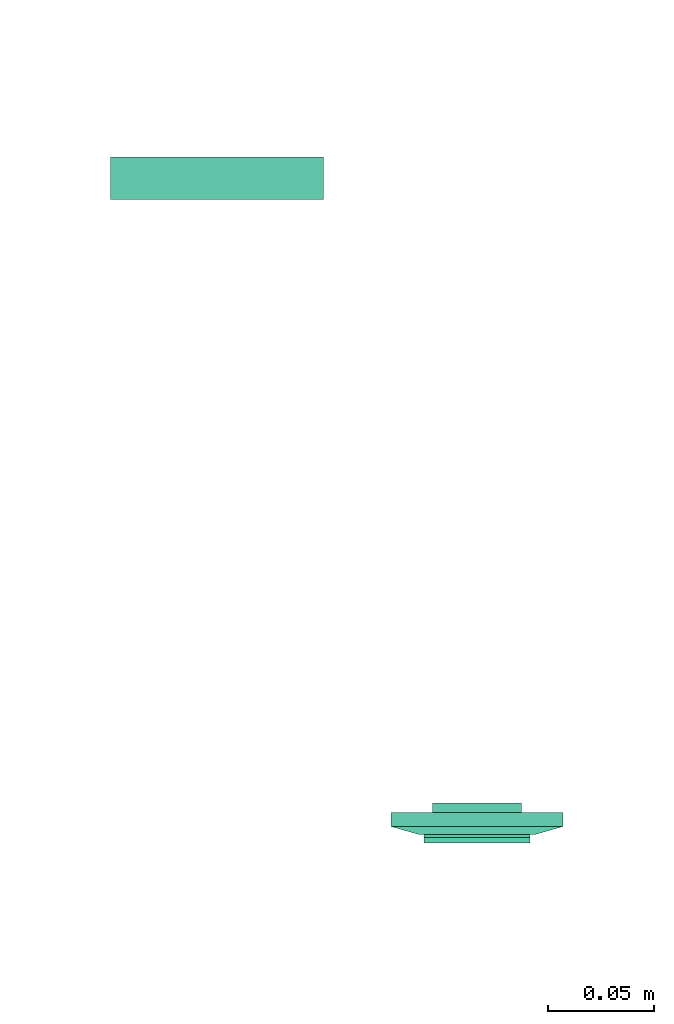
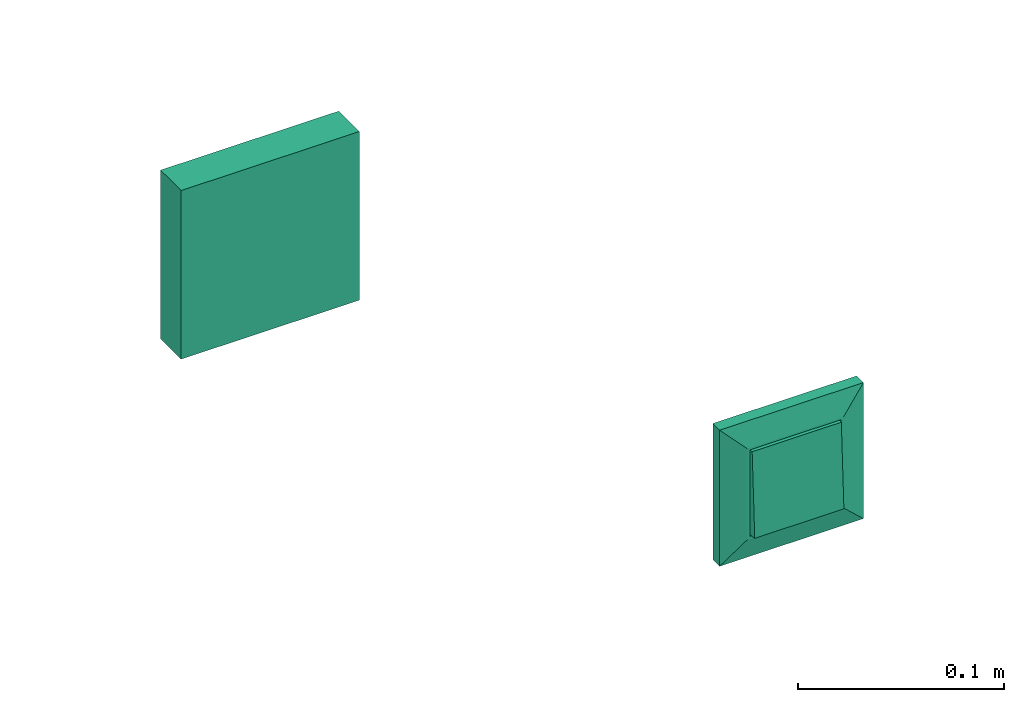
# One storey, part 114 of 153: 2 flow terminals.
"""IFC2X3 building model written with IfcOpenShell, lengths in metres."""

from ifc_helpers import new_model, entity, si_unit, converted_unit, derived_unit, direction, frame, origin, origin_2d_with_axis, place, context, subcontext, project, spatial, rectangle, extrude, faceted_brep, source, transform, mapped, type_object, type_shapes, element, save


model = new_model("IFC2X3")

# Units and contexts
model_context = context("Model", 3, precision=1e-05, world=origin(), true_north=direction((6.12303176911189e-17, 1.0)))
body_context = subcontext(model_context, "Body", "Model", "MODEL_VIEW")
ifc_project = project(units=[si_unit("LENGTHUNIT", "METRE"), si_unit("AREAUNIT", "SQUARE_METRE"), si_unit("VOLUMEUNIT", "CUBIC_METRE"), converted_unit("PLANEANGLEUNIT", "DEGREE", entity("IfcRatioMeasure", 0.0174532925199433), si_unit("PLANEANGLEUNIT", "RADIAN"), dimensions=[0, 0, 0, 0, 0, 0, 0]), si_unit("MASSUNIT", "GRAM", prefix="KILO"), derived_unit("MASSDENSITYUNIT", [(si_unit("MASSUNIT", "GRAM", prefix="KILO"), 1), (si_unit("LENGTHUNIT", "METRE"), -3)]), si_unit("TIMEUNIT", "SECOND"), si_unit("FREQUENCYUNIT", "HERTZ"), si_unit("THERMODYNAMICTEMPERATUREUNIT", "DEGREE_CELSIUS"), derived_unit("THERMALTRANSMITTANCEUNIT", [(si_unit("MASSUNIT", "GRAM", prefix="KILO"), 1), (si_unit("THERMODYNAMICTEMPERATUREUNIT", "KELVIN"), -1), (si_unit("TIMEUNIT", "SECOND"), -3)]), derived_unit("VOLUMETRICFLOWRATEUNIT", [(si_unit("LENGTHUNIT", "METRE"), 3), (si_unit("TIMEUNIT", "SECOND"), -1)]), si_unit("ELECTRICCURRENTUNIT", "AMPERE"), si_unit("ELECTRICVOLTAGEUNIT", "VOLT"), si_unit("POWERUNIT", "WATT"), si_unit("FORCEUNIT", "NEWTON"), si_unit("ILLUMINANCEUNIT", "LUX"), si_unit("LUMINOUSFLUXUNIT", "LUMEN"), si_unit("LUMINOUSINTENSITYUNIT", "CANDELA"), derived_unit("USERDEFINED", [(si_unit("MASSUNIT", "GRAM", prefix="KILO"), -1), (si_unit("LENGTHUNIT", "METRE"), -2), (si_unit("TIMEUNIT", "SECOND"), 3), (si_unit("LUMINOUSFLUXUNIT", "LUMEN"), 1)]), derived_unit("LINEARVELOCITYUNIT", [(si_unit("LENGTHUNIT", "METRE"), 1), (si_unit("TIMEUNIT", "SECOND"), -1)]), si_unit("PRESSUREUNIT", "PASCAL"), derived_unit("USERDEFINED", [(si_unit("LENGTHUNIT", "METRE"), -2), (si_unit("MASSUNIT", "GRAM", prefix="KILO"), 1), (si_unit("TIMEUNIT", "SECOND"), -2)])], contexts=[model_context])

# Site, building, storey
site_placement = place(None, origin())
site = spatial("IfcSite", under=ifc_project, at=site_placement, Name="Default", CompositionType="ELEMENT")
building_placement = place(site_placement, origin())
building = spatial("IfcBuilding", under=site, at=building_placement, CompositionType="ELEMENT")
storey_placement = place(building_placement, frame((0.0, 0.0, -4.62)))
storey = spatial("IfcBuildingStorey", under=building, at=storey_placement, Name="S02", CompositionType="ELEMENT", Elevation=-4.62)

# Flow terminals
light_fixture_type_1 = type_object("IfcLightFixtureType", Name="Default", PredefinedType="NOTDEFINED")
shared_shape_1 = source(origin(), body_context, "Body", "SweptSolid", [
    extrude(rectangle(XDim=0.1, YDim=0.1, at=origin_2d_with_axis()), frame((0.0, 0.0, 0.0), z_axis=(0.0, 0.0, 1.0), x_axis=(0.0, 1.0, 0.0)), (0.0, 0.0, 1.0), 0.02),
])
type_shapes(light_fixture_type_1, [shared_shape_1])
flow_terminal_1_placement = place(storey_placement, frame((52.5565184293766, -184.926487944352, 1.05000000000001), z_axis=(0.0, 1.0, 0.0), x_axis=(-1.0, 0.0, 0.0)))
element("IfcFlowTerminal", 1, at=flow_terminal_1_placement, inside=storey, type_object=light_fixture_type_1, Name="E_Reader_Badge 1_F_MEPcontent:Default", ObjectType="E_Reader_Badge 1_F_MEPcontent:Default", context=body_context, shape_type="MappedRepresentation", body=[
    mapped(shared_shape_1, transform((0.0, 0.0, 0.0), scale=1.0)),
])
light_fixture_type_2 = type_object("IfcLightFixtureType", Name="VV IP21", PredefinedType="NOTDEFINED")
shared_shape_2 = source(origin(), body_context, "Body", "Brep", [
    faceted_brep([(0.0, 0.0209999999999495, -0.00460000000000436), (0.00543519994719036, 0.02028444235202, -0.00460000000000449), (0.0105000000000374, 0.0181865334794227, -0.00460000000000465), (0.0148492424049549, 0.014849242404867, -0.00460000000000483), (0.0181865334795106, 0.0104999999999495, -0.00460000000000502), (0.0202844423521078, 0.00543519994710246, -0.00460000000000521), (0.0210000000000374, 0.0, -0.00460000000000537), (0.0202844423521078, -0.00543519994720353, -0.00460000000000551), (0.0181865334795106, -0.0105000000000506, -0.0046000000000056), (0.0148492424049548, -0.0148492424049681, -0.00460000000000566), (0.0105000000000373, -0.0181865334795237, -0.00460000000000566), (0.00543519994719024, -0.0202844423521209, -0.00460000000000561), (0.0, -0.0210000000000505, -0.00460000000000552), (-0.00543519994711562, -0.0202844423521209, -0.00460000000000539), (-0.0104999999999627, -0.0181865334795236, -0.00460000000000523), (-0.0148492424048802, -0.0148492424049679, -0.00460000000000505), (-0.0181865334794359, -0.0105000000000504, -0.00460000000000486), (-0.0202844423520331, -0.00543519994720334, -0.00460000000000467), (-0.0209999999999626, 0.0, -0.00460000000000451), (-0.020284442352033, 0.00543519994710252, -0.00460000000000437), (-0.0181865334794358, 0.0104999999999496, -0.00460000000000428), (-0.0148492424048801, 0.0148492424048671, -0.00460000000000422), (-0.0104999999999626, 0.0181865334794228, -0.00460000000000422), (-0.00543519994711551, 0.02028444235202, -0.00460000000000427), (-0.020284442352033, -0.00543519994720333, 0.0), (-0.0209999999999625, 0.0, 0.0), (-0.0181865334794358, -0.0105000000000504, 0.0), (-0.0104999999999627, -0.0181865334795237, 0.0), (-0.0148492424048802, -0.0148492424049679, 0.0), (-0.00543519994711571, -0.020284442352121, 0.0), (0.0, -0.0210000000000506, 0.0), (0.00543519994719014, -0.0202844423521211, 0.0), (0.0105000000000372, -0.018186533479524, 0.0), (0.0181865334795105, -0.0105000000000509, 0.0), (0.0148492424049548, -0.0148492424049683, 0.0), (0.0202844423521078, -0.00543519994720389, 0.0), (0.0210000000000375, 0.0, 0.0), (0.0202844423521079, 0.00543519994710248, 0.0), (0.0181865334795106, 0.0104999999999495, 0.0), (0.0105000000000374, 0.0181865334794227, 0.0), (0.0148492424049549, 0.014849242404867, 0.0), (0.00543519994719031, 0.0202844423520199, 0.0), (0.0, 0.0209999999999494, 0.0), (-0.00543519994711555, 0.0202844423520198, 0.0), (-0.0104999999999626, 0.0181865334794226, 0.0), (-0.0181865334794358, 0.0104999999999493, 0.0), (-0.0148492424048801, 0.0148492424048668, 0.0), (-0.020284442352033, 0.00543519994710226, 0.0)], [[[0, 1, 2, 3, 4, 5, 6, 7, 8, 9, 10, 11, 12, 13, 14, 15, 16, 17, 18, 19, 20, 21, 22, 23]], [[17, 24, 25, 18]], [[16, 26, 24, 17]], [[27, 28, 15, 14]], [[16, 15, 28, 26]], [[29, 27, 14, 13]], [[30, 29, 13, 12]], [[11, 31, 30, 12]], [[10, 32, 31, 11]], [[33, 34, 9, 8]], [[10, 9, 34, 32]], [[35, 33, 8, 7]], [[36, 35, 7, 6]], [[5, 37, 36, 6]], [[4, 38, 37, 5]], [[39, 40, 3, 2]], [[4, 3, 40, 38]], [[41, 39, 2, 1]], [[42, 41, 1, 0]], [[23, 43, 42, 0]], [[22, 44, 43, 23]], [[45, 46, 21, 20]], [[22, 21, 46, 44]], [[47, 45, 20, 19]], [[25, 47, 19, 18]], [[25, 24, 26, 28, 27, 29, 30, 31, 32, 34, 33, 35, 36, 37, 38, 40, 39, 41, 42, 43, 44, 46, 45, 47]]]),
    faceted_brep([(0.0270000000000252, 0.026999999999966, 0.0103999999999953), (-0.0269999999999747, 0.026999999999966, 0.0103999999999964), (-0.0269999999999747, -0.0270000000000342, 0.0103999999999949), (0.0270000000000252, -0.0270000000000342, 0.0103999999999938), (-0.0254999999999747, 0.0258096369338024, 0.0103999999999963), (0.0255000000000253, 0.0258096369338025, 0.0103999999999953), (0.0255000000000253, -0.0255000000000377, 0.0103999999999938), (-0.0254999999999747, -0.0255000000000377, 0.0103999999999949), (0.0270000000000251, 0.0269999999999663, 0.00199999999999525), (0.0270000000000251, -0.0270000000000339, 0.00199999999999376), (-0.0269999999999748, -0.0270000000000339, 0.00199999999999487), (-0.0269999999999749, 0.0269999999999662, 0.00199999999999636), (0.0255000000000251, 0.0258096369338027, 0.00199999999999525), (-0.0254999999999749, 0.0258096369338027, 0.0019999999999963), (-0.0254999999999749, -0.0255000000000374, 0.00199999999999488), (0.0255000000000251, -0.0255000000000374, 0.00199999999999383)], [[[0, 1, 2, 3], [4, 5, 6, 7]], [[8, 9, 10, 11], [12, 13, 14, 15]], [[1, 0, 8, 11]], [[2, 1, 11, 10]], [[3, 2, 10, 9]], [[0, 3, 9, 8]], [[12, 5, 4, 13]], [[13, 4, 7, 14]], [[14, 7, 6, 15]], [[5, 12, 15, 6]]]),
    faceted_brep([(0.0250000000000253, 0.0253096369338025, 0.00659999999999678), (0.0250000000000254, 0.0253096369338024, 0.0117095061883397), (0.0250000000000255, -0.0245000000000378, 0.0142232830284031), (0.0250000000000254, -0.0250000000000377, 0.0117095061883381), (0.0250000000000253, -0.0250000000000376, 0.00659999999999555), (-0.0249999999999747, 0.0253096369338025, 0.00659999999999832), (-0.0249999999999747, -0.0250000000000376, 0.00659999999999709), (-0.0249999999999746, -0.0250000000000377, 0.0117095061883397), (-0.0249999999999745, -0.0245000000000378, 0.0142232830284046), (-0.0249999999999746, 0.0253096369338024, 0.0117095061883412)], [[[0, 1, 2, 3, 4]], [[5, 6, 7, 8, 9]], [[1, 0, 5, 9]], [[2, 1, 9, 8]], [[3, 2, 8, 7]], [[4, 3, 7, 6]], [[0, 4, 6, 5]]]),
    faceted_brep([(0.027000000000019, 0.0269999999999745, 0.00659999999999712), (-0.0269999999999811, 0.0269999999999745, 0.00659999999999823), (-0.026999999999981, -0.0270000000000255, 0.00659999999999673), (0.027000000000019, -0.0270000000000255, 0.00659999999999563), (0.040350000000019, 0.0403499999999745, 0.00659999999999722), (0.040350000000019, -0.0403500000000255, 0.00659999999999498), (-0.0403499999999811, -0.0403500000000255, 0.00659999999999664), (-0.0403499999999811, 0.0403499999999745, 0.00659999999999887), (-0.026999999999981, 0.0269999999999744, 0.0103999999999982), (0.027000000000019, 0.0269999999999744, 0.0103999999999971), (-0.026999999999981, -0.0270000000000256, 0.0103999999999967), (0.027000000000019, -0.0270000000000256, 0.0103999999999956)], [[[0, 1, 2, 3], [4, 5, 6, 7]], [[4, 7, 8, 9]], [[7, 6, 10, 8]], [[6, 5, 11, 10]], [[5, 4, 9, 11]], [[0, 9, 8, 1]], [[1, 8, 10, 2]], [[2, 10, 11, 3]], [[9, 0, 3, 11]]], outer=[[False, True], [True], [True], [True], [True], [True], [True], [True], [True]]),
    faceted_brep([(0.040350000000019, 0.0403499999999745, 0.00659999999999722), (-0.0403499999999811, 0.0403499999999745, 0.00659999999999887), (-0.0403499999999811, -0.0403500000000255, 0.00659999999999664), (0.040350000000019, -0.0403500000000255, 0.00659999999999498), (-0.0269999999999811, 0.0269999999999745, 0.00659999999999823), (0.0270000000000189, 0.0269999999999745, 0.00659999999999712), (0.0270000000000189, -0.0270000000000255, 0.00659999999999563), (-0.0269999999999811, -0.0270000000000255, 0.00659999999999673), (0.0403500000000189, 0.0403499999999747, 0.0), (0.0403500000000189, -0.0403500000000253, 0.0), (-0.0403499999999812, -0.0403500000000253, 0.0), (-0.0403499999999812, 0.0403499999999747, 0.0), (0.0270000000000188, 0.0269999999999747, 0.0), (-0.0269999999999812, 0.0269999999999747, 0.0), (-0.0269999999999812, -0.0270000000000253, 0.0), (0.0270000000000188, -0.0270000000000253, 0.0)], [[[0, 1, 2, 3], [4, 5, 6, 7]], [[8, 9, 10, 11], [12, 13, 14, 15]], [[1, 0, 8, 11]], [[2, 1, 11, 10]], [[3, 2, 10, 9]], [[0, 3, 9, 8]], [[12, 5, 4, 13]], [[13, 4, 7, 14]], [[14, 7, 6, 15]], [[5, 12, 15, 6]]]),
])
type_shapes(light_fixture_type_2, [shared_shape_2])
flow_terminal_2_placement = place(storey_placement, frame((52.6787436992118, -185.214488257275, 1.05000000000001), z_axis=(0.0, -1.0, 0.0), x_axis=(1.0, 0.0, 0.0)))
element("IfcFlowTerminal", 2, at=flow_terminal_2_placement, inside=storey, type_object=light_fixture_type_2, Name="INT_Inter VV:VV IP21", ObjectType="INT_Inter VV:VV IP21", context=body_context, shape_type="MappedRepresentation", body=[
    mapped(shared_shape_2, transform((0.0, 0.0, 0.0), scale=1.0)),
])

save(model, "model.ifc")
